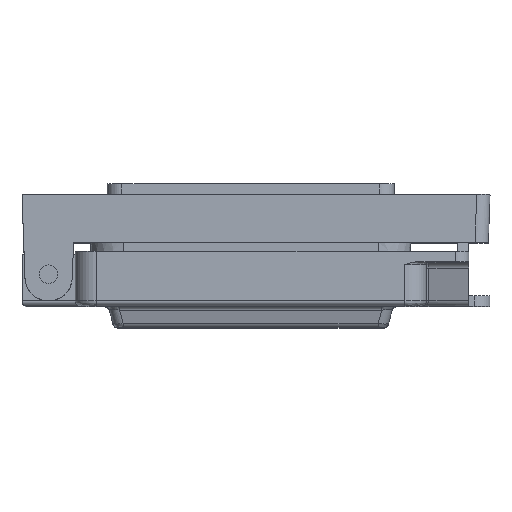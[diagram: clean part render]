
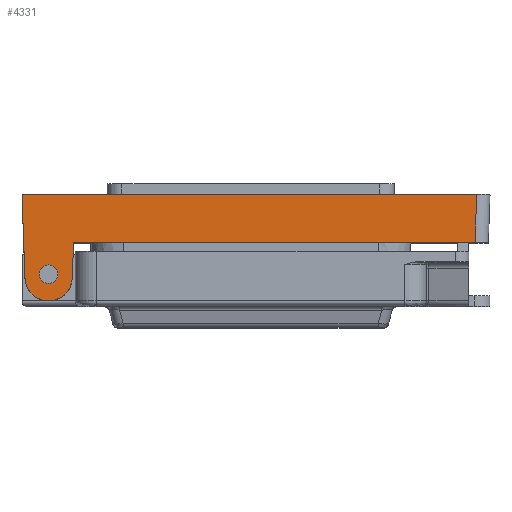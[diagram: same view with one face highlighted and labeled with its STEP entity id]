
A CAD part, top view. The second image highlights one B-rep face of the part: STEP entity #4331.
In plain terms, the highlighted planar face has unit normal (0, 0, 1).
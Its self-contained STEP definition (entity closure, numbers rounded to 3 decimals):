
#81 = FACE_OUTER_BOUND ( 'NONE', #2884, .T. ) ;
#292 = DIRECTION ( 'NONE',  ( 0., 0., -1. ) ) ;
#353 = CARTESIAN_POINT ( 'NONE',  ( 5., -15., 88.6 ) ) ;
#379 = DIRECTION ( 'NONE',  ( -1., 0., 0. ) ) ;
#652 = CARTESIAN_POINT ( 'NONE',  ( 42.749, 0., 88.6 ) ) ;
#868 = EDGE_CURVE ( 'NONE', #3055, #21320, #16594, .T. ) ;
#1547 = EDGE_CURVE ( 'NONE', #6697, #7569, #20483, .T. ) ;
#2455 = ORIENTED_EDGE ( 'NONE', *, *, #18943, .T. ) ;
#2884 = EDGE_LOOP ( 'NONE', ( #6419, #16826, #20427, #14708, #6410, #2455 ) ) ;
#3055 = VERTEX_POINT ( 'NONE', #13197 ) ;
#3205 = VECTOR ( 'NONE', #21345, 1000. ) ;
#3470 = CARTESIAN_POINT ( 'NONE',  ( 85.343, -4.456, 88.6 ) ) ;
#3506 = DIRECTION ( 'NONE',  ( 0., 0., 1. ) ) ;
#3743 = LINE ( 'NONE', #6383, #16622 ) ;
#4006 = LINE ( 'NONE', #3470, #9725 ) ;
#4331 = ADVANCED_FACE ( 'NONE', ( #18314, #81 ), #9610, .T. ) ;
#5491 = CIRCLE ( 'NONE', #10962, 4.454 ) ;
#6383 = CARTESIAN_POINT ( 'NONE',  ( 9.576, -12.355, 88.6 ) ) ;
#6410 = ORIENTED_EDGE ( 'NONE', *, *, #7899, .T. ) ;
#6419 = ORIENTED_EDGE ( 'NONE', *, *, #15990, .T. ) ;
#6697 = VERTEX_POINT ( 'NONE', #22387 ) ;
#6855 = VERTEX_POINT ( 'NONE', #19233 ) ;
#6917 = VERTEX_POINT ( 'NONE', #19382 ) ;
#7063 = CARTESIAN_POINT ( 'NONE',  ( 48.693, -9., 88.6 ) ) ;
#7069 = VERTEX_POINT ( 'NONE', #7475 ) ;
#7475 = CARTESIAN_POINT ( 'NONE',  ( 85.498, 0., 88.6 ) ) ;
#7569 = VERTEX_POINT ( 'NONE', #15083 ) ;
#7899 = EDGE_CURVE ( 'NONE', #7069, #6917, #16565, .T. ) ;
#9218 = DIRECTION ( 'NONE',  ( 0., 0., -1. ) ) ;
#9246 = DIRECTION ( 'NONE',  ( 1., 0., 0. ) ) ;
#9318 = DIRECTION ( 'NONE',  ( 0., 0., 1. ) ) ;
#9325 = EDGE_CURVE ( 'NONE', #13730, #6697, #3743, .T. ) ;
#9496 = EDGE_CURVE ( 'NONE', #7569, #7069, #4006, .T. ) ;
#9546 = CARTESIAN_POINT ( 'NONE',  ( -0.513, -20.12, 88.6 ) ) ;
#9610 = PLANE ( 'NONE',  #12175 ) ;
#9725 = VECTOR ( 'NONE', #13903, 1000. ) ;
#10853 = ORIENTED_EDGE ( 'NONE', *, *, #20080, .T. ) ;
#10962 = AXIS2_PLACEMENT_3D ( 'NONE', #13930, #3506, #15734 ) ;
#11924 = ORIENTED_EDGE ( 'NONE', *, *, #868, .T. ) ;
#12175 = AXIS2_PLACEMENT_3D ( 'NONE', #9546, #9318, #9246 ) ;
#12445 = LINE ( 'NONE', #19551, #3205 ) ;
#12846 = CARTESIAN_POINT ( 'NONE',  ( 3.5, -15., 88.6 ) ) ;
#12893 = DIRECTION ( 'NONE',  ( -1., 0., 0. ) ) ;
#13197 = CARTESIAN_POINT ( 'NONE',  ( 6.5, -15., 88.6 ) ) ;
#13239 = CIRCLE ( 'NONE', #17142, 1.5 ) ;
#13730 = VERTEX_POINT ( 'NONE', #17613 ) ;
#13903 = DIRECTION ( 'NONE',  ( 0.035, 0.999, 0. ) ) ;
#13930 = CARTESIAN_POINT ( 'NONE',  ( 5., -15.546, 88.6 ) ) ;
#14708 = ORIENTED_EDGE ( 'NONE', *, *, #9496, .T. ) ;
#14718 = DIRECTION ( 'NONE',  ( 1., 0., 0. ) ) ;
#15083 = CARTESIAN_POINT ( 'NONE',  ( 85.184, -9., 88.6 ) ) ;
#15734 = DIRECTION ( 'NONE',  ( -1., 0., 0. ) ) ;
#15990 = EDGE_CURVE ( 'NONE', #6855, #13730, #5491, .T. ) ;
#16565 = LINE ( 'NONE', #652, #20788 ) ;
#16594 = CIRCLE ( 'NONE', #17838, 1.5 ) ;
#16622 = VECTOR ( 'NONE', #18727, 1000. ) ;
#16826 = ORIENTED_EDGE ( 'NONE', *, *, #9325, .T. ) ;
#17142 = AXIS2_PLACEMENT_3D ( 'NONE', #19821, #9218, #21590 ) ;
#17613 = CARTESIAN_POINT ( 'NONE',  ( 9.451, -15.711, 88.6 ) ) ;
#17838 = AXIS2_PLACEMENT_3D ( 'NONE', #353, #292, #379 ) ;
#18103 = EDGE_LOOP ( 'NONE', ( #10853, #11924 ) ) ;
#18314 = FACE_BOUND ( 'NONE', #18103, .T. ) ;
#18727 = DIRECTION ( 'NONE',  ( 0.037, 0.999, 0. ) ) ;
#18943 = EDGE_CURVE ( 'NONE', #6917, #6855, #12445, .T. ) ;
#19233 = CARTESIAN_POINT ( 'NONE',  ( 0.548, -15.701, 88.6 ) ) ;
#19382 = CARTESIAN_POINT ( 'NONE',  ( 0., 0., 88.6 ) ) ;
#19551 = CARTESIAN_POINT ( 'NONE',  ( 0., 0., 88.6 ) ) ;
#19821 = CARTESIAN_POINT ( 'NONE',  ( 5., -15., 88.6 ) ) ;
#19925 = VECTOR ( 'NONE', #14718, 1000. ) ;
#20080 = EDGE_CURVE ( 'NONE', #21320, #3055, #13239, .T. ) ;
#20427 = ORIENTED_EDGE ( 'NONE', *, *, #1547, .T. ) ;
#20483 = LINE ( 'NONE', #7063, #19925 ) ;
#20788 = VECTOR ( 'NONE', #12893, 1000. ) ;
#21320 = VERTEX_POINT ( 'NONE', #12846 ) ;
#21345 = DIRECTION ( 'NONE',  ( 0.035, -0.999, 0. ) ) ;
#21590 = DIRECTION ( 'NONE',  ( -1., 0., 0. ) ) ;
#22387 = CARTESIAN_POINT ( 'NONE',  ( 9.7, -9., 88.6 ) ) ;
